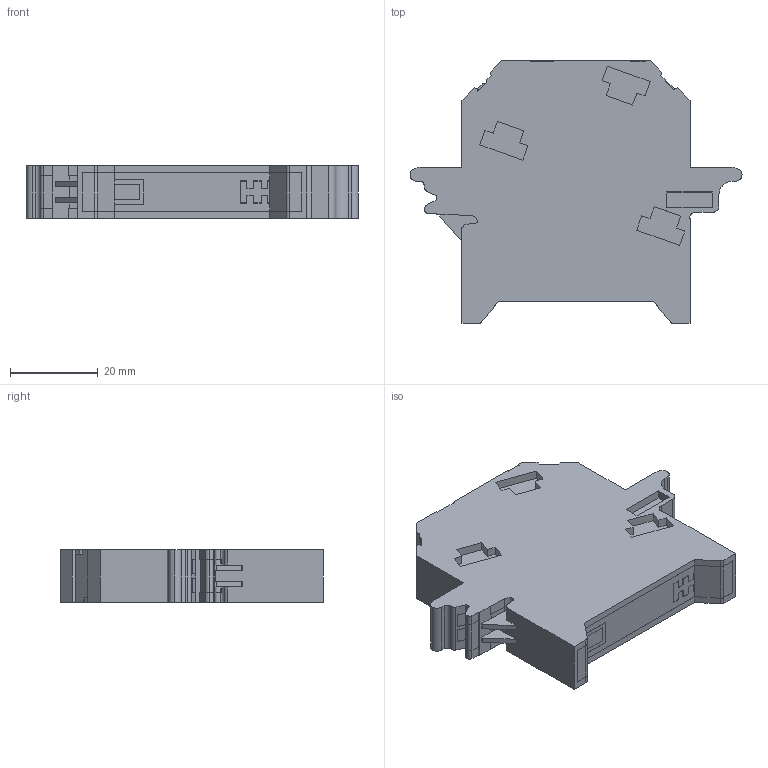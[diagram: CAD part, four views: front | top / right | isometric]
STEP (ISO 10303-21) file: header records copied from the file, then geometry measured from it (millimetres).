
FILE_DESCRIPTION(('Open CASCADE Model'),'2;1');
FILE_NAME('Open CASCADE Shape Model','2024-04-05T14:05:45',('Author'),( 'Open CASCADE'),'Open CASCADE STEP processor 6.5','Open CASCADE 6.5' ,'Unknown');
FILE_SCHEMA(('AUTOMOTIVE_DESIGN { 1 0 10303 214 1 1 1 1 }'));
Length unit declared in the file: millimetre
Products named in the file (281): CADSOFTTOOLS 1; CADSOFTTOOLS 1.1; CADSOFTTOOLS 1.2; CADSOFTTOOLS 1.3; CADSOFTTOOLS 1.4; CADSOFTTOOLS 1.5; CADSOFTTOOLS 1.6; CADSOFTTOOLS 1.7; CADSOFTTOOLS 1.8; CADSOFTTOOLS 1.9; CADSOFTTOOLS 1.10; CADSOFTTOOLS 1.11; CADSOFTTOOLS 1.12; CADSOFTTOOLS 1.13; CADSOFTTOOLS 1.14; CADSOFTTOOLS 1.15; CADSOFTTOOLS 1.16; CADSOFTTOOLS 1.17; CADSOFTTOOLS 1.18; CADSOFTTOOLS 1.19; CADSOFTTOOLS 1.20; CADSOFTTOOLS 1.21; CADSOFTTOOLS 1.22; CADSOFTTOOLS 1.23; CADSOFTTOOLS 1.24; CADSOFTTOOLS 1.25; CADSOFTTOOLS 1.26; CADSOFTTOOLS 1.27; CADSOFTTOOLS 1.28; CADSOFTTOOLS 1.29; CADSOFTTOOLS 1.30; CADSOFTTOOLS 1.31; CADSOFTTOOLS 1.32; CADSOFTTOOLS 1.33; CADSOFTTOOLS 1.34; CADSOFTTOOLS 1.35; CADSOFTTOOLS 1.36; CADSOFTTOOLS 1.37; CADSOFTTOOLS 1.38; CADSOFTTOOLS 1.39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
Assembly tree (280 placements, depth 2):
  CADSOFTTOOLS 1
    CADSOFTTOOLS 1.1
    CADSOFTTOOLS 1.2
    CADSOFTTOOLS 1.3
    CADSOFTTOOLS 1.4
    CADSOFTTOOLS 1.5
    CADSOFTTOOLS 1.6
    CADSOFTTOOLS 1.7
    CADSOFTTOOLS 1.8
    CADSOFTTOOLS 1.9
    CADSOFTTOOLS 1.10
    CADSOFTTOOLS 1.11
    CADSOFTTOOLS 1.12
    CADSOFTTOOLS 1.13
    CADSOFTTOOLS 1.14
    CADSOFTTOOLS 1.15
    CADSOFTTOOLS 1.16
    CADSOFTTOOLS 1.17
    CADSOFTTOOLS 1.18
    CADSOFTTOOLS 1.19
    CADSOFTTOOLS 1.20
    CADSOFTTOOLS 1.21
    CADSOFTTOOLS 1.22
    CADSOFTTOOLS 1.23
    CADSOFTTOOLS 1.24
    CADSOFTTOOLS 1.25
    CADSOFTTOOLS 1.26
    CADSOFTTOOLS 1.27
    CADSOFTTOOLS 1.28
    CADSOFTTOOLS 1.29
    CADSOFTTOOLS 1.30
    CADSOFTTOOLS 1.31
    CADSOFTTOOLS 1.32
    CADSOFTTOOLS 1.33
    CADSOFTTOOLS 1.34
    CADSOFTTOOLS 1.35
    CADSOFTTOOLS 1.36
    CADSOFTTOOLS 1.37
    CADSOFTTOOLS 1.38
    CADSOFTTOOLS 1.39
    CADSOFTTOOLS 1.40
    CADSOFTTOOLS 1.41
    CADSOFTTOOLS 1.42
    CADSOFTTOOLS 1.43
    CADSOFTTOOLS 1.44
    CADSOFTTOOLS 1.45
    CADSOFTTOOLS 1.46
    CADSOFTTOOLS 1.47
    CADSOFTTOOLS 1.48
    CADSOFTTOOLS 1.49
    CADSOFTTOOLS 1.50
    CADSOFTTOOLS 1.51
    CADSOFTTOOLS 1.52
    CADSOFTTOOLS 1.53
    CADSOFTTOOLS 1.54
    CADSOFTTOOLS 1.55
    CADSOFTTOOLS 1.56
    CADSOFTTOOLS 1.57
    CADSOFTTOOLS 1.58
    CADSOFTTOOLS 1.59
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Bounding box: 75.7 x 59.92 x 12 mm (x, y, z)
Surface area: 9910.3 mm2 (no closed solid volume)
Topology: 0 solids, 280 shells, 280 faces, 1586 edges, 1586 vertices
Faces by surface type: plane 227, cylinder 51, cone 2
Entity records: 31961 total; most frequent: CARTESIAN_POINT 5971, DIRECTION 4245, LINE 2632, VECTOR 2632, ORIENTED_EDGE 1586, EDGE_CURVE 1586, VERTEX_POINT 1586, SURFACE_CURVE 1586
